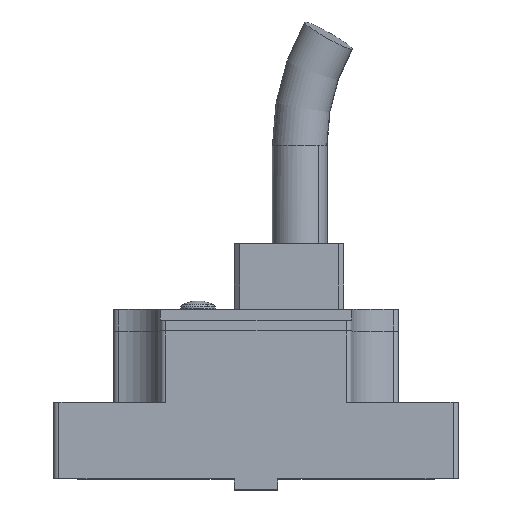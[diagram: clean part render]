
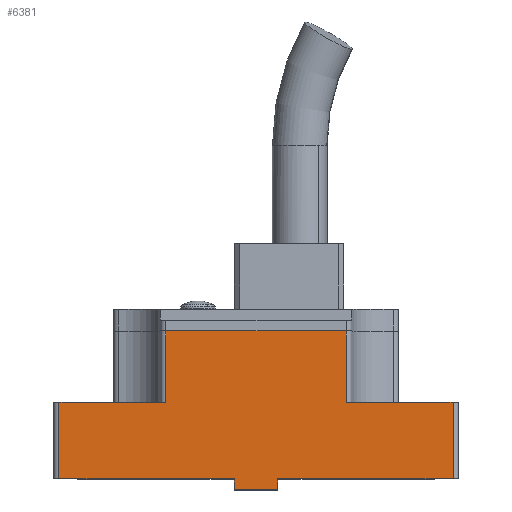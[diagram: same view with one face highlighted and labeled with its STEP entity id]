
A CAD part, top view. The second image highlights one B-rep face of the part: STEP entity #6381.
In plain terms, the highlighted planar face has unit normal (0, 0, 1).
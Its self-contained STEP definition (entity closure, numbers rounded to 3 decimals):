
#92 = FACE_OUTER_BOUND ( 'NONE', #6052, .T. ) ;
#108 = ORIENTED_EDGE ( 'NONE', *, *, #2993, .T. ) ;
#212 = CARTESIAN_POINT ( 'NONE',  ( -2., 0., 15.5 ) ) ;
#493 = VECTOR ( 'NONE', #4047, 1000. ) ;
#740 = LINE ( 'NONE', #6223, #7336 ) ;
#891 = VERTEX_POINT ( 'NONE', #4908 ) ;
#1001 = DIRECTION ( 'NONE',  ( -1., 0., 0. ) ) ;
#1006 = LINE ( 'NONE', #6401, #8058 ) ;
#1175 = CARTESIAN_POINT ( 'NONE',  ( 18., 7., 15.5 ) ) ;
#1332 = CARTESIAN_POINT ( 'NONE',  ( -2., -1., 15.5 ) ) ;
#1466 = DIRECTION ( 'NONE',  ( 1., 0., 0. ) ) ;
#1511 = DIRECTION ( 'NONE',  ( 0., -1., 0. ) ) ;
#1534 = ORIENTED_EDGE ( 'NONE', *, *, #3367, .T. ) ;
#1577 = EDGE_CURVE ( 'NONE', #4821, #2682, #3137, .T. ) ;
#1671 = CARTESIAN_POINT ( 'NONE',  ( 8.25, 13.5, 15.5 ) ) ;
#1701 = CARTESIAN_POINT ( 'NONE',  ( 2., 0., 15.5 ) ) ;
#1777 = VECTOR ( 'NONE', #4032, 1000. ) ;
#1913 = EDGE_CURVE ( 'NONE', #8495, #3940, #5550, .T. ) ;
#2299 = VERTEX_POINT ( 'NONE', #1175 ) ;
#2370 = AXIS2_PLACEMENT_3D ( 'NONE', #6378, #8273, #4955 ) ;
#2595 = VERTEX_POINT ( 'NONE', #1701 ) ;
#2663 = EDGE_CURVE ( 'NONE', #2299, #7792, #5353, .T. ) ;
#2682 = VERTEX_POINT ( 'NONE', #7453 ) ;
#2683 = VECTOR ( 'NONE', #3896, 1000. ) ;
#2838 = CARTESIAN_POINT ( 'NONE',  ( -2., -1., 15.5 ) ) ;
#2993 = EDGE_CURVE ( 'NONE', #891, #3415, #6482, .T. ) ;
#3010 = CARTESIAN_POINT ( 'NONE',  ( -2., 0., 15.5 ) ) ;
#3137 = LINE ( 'NONE', #8515, #4590 ) ;
#3186 = LINE ( 'NONE', #7918, #3271 ) ;
#3225 = EDGE_CURVE ( 'NONE', #4492, #2299, #7378, .T. ) ;
#3250 = CARTESIAN_POINT ( 'NONE',  ( 18., 7., 15.5 ) ) ;
#3257 = CARTESIAN_POINT ( 'NONE',  ( -8.25, 7., 15.5 ) ) ;
#3271 = VECTOR ( 'NONE', #4509, 1000. ) ;
#3367 = EDGE_CURVE ( 'NONE', #7475, #891, #740, .T. ) ;
#3415 = VERTEX_POINT ( 'NONE', #5462 ) ;
#3421 = CARTESIAN_POINT ( 'NONE',  ( 8.75, 7., 15.5 ) ) ;
#3441 = CARTESIAN_POINT ( 'NONE',  ( -18., 0., 15.5 ) ) ;
#3456 = VECTOR ( 'NONE', #1511, 1000. ) ;
#3608 = LINE ( 'NONE', #1671, #4714 ) ;
#3640 = PLANE ( 'NONE',  #2370 ) ;
#3695 = DIRECTION ( 'NONE',  ( 1., 0., 0. ) ) ;
#3760 = VECTOR ( 'NONE', #1466, 1000. ) ;
#3762 = ORIENTED_EDGE ( 'NONE', *, *, #8754, .T. ) ;
#3896 = DIRECTION ( 'NONE',  ( -1., 0., 0. ) ) ;
#3934 = ORIENTED_EDGE ( 'NONE', *, *, #1577, .T. ) ;
#3940 = VERTEX_POINT ( 'NONE', #2838 ) ;
#3960 = DIRECTION ( 'NONE',  ( 0., -1., 0. ) ) ;
#4029 = ORIENTED_EDGE ( 'NONE', *, *, #2663, .T. ) ;
#4032 = DIRECTION ( 'NONE',  ( 1., 0., 0. ) ) ;
#4047 = DIRECTION ( 'NONE',  ( 0., 1., 0. ) ) ;
#4229 = VECTOR ( 'NONE', #7940, 1000. ) ;
#4300 = ORIENTED_EDGE ( 'NONE', *, *, #7849, .T. ) ;
#4492 = VERTEX_POINT ( 'NONE', #6136 ) ;
#4509 = DIRECTION ( 'NONE',  ( 0., 1., 0. ) ) ;
#4590 = VECTOR ( 'NONE', #1001, 1000. ) ;
#4594 = CARTESIAN_POINT ( 'NONE',  ( 8.25, 13.5, 15.5 ) ) ;
#4714 = VECTOR ( 'NONE', #8450, 1000. ) ;
#4821 = VERTEX_POINT ( 'NONE', #4594 ) ;
#4908 = CARTESIAN_POINT ( 'NONE',  ( -18., 7., 15.5 ) ) ;
#4955 = DIRECTION ( 'NONE',  ( -1., 0., 0. ) ) ;
#5224 = CARTESIAN_POINT ( 'NONE',  ( -8.25, 7., 15.5 ) ) ;
#5252 = ORIENTED_EDGE ( 'NONE', *, *, #5600, .T. ) ;
#5353 = LINE ( 'NONE', #3421, #2683 ) ;
#5462 = CARTESIAN_POINT ( 'NONE',  ( -18., 0., 15.5 ) ) ;
#5469 = EDGE_CURVE ( 'NONE', #2682, #7475, #5865, .T. ) ;
#5550 = LINE ( 'NONE', #3010, #3456 ) ;
#5600 = EDGE_CURVE ( 'NONE', #2595, #4492, #1006, .T. ) ;
#5720 = ORIENTED_EDGE ( 'NONE', *, *, #1913, .T. ) ;
#5865 = LINE ( 'NONE', #5224, #4229 ) ;
#5903 = ORIENTED_EDGE ( 'NONE', *, *, #6843, .T. ) ;
#5943 = EDGE_CURVE ( 'NONE', #3415, #8495, #7492, .T. ) ;
#6052 = EDGE_LOOP ( 'NONE', ( #3934, #7962, #1534, #108, #7456, #5720, #5903, #4300, #5252, #7076, #4029, #3762 ) ) ;
#6136 = CARTESIAN_POINT ( 'NONE',  ( 18., 0., 15.5 ) ) ;
#6223 = CARTESIAN_POINT ( 'NONE',  ( -18.5, 7., 15.5 ) ) ;
#6339 = CARTESIAN_POINT ( 'NONE',  ( 2., -1., 15.5 ) ) ;
#6378 = CARTESIAN_POINT ( 'NONE',  ( 0., 0., 15.5 ) ) ;
#6381 = ADVANCED_FACE ( 'NONE', ( #92 ), #3640, .F. ) ;
#6401 = CARTESIAN_POINT ( 'NONE',  ( 18.5, 0., 15.5 ) ) ;
#6482 = LINE ( 'NONE', #3441, #8635 ) ;
#6843 = EDGE_CURVE ( 'NONE', #3940, #8758, #7447, .T. ) ;
#7076 = ORIENTED_EDGE ( 'NONE', *, *, #3225, .T. ) ;
#7176 = CARTESIAN_POINT ( 'NONE',  ( 8.25, 7., 15.5 ) ) ;
#7336 = VECTOR ( 'NONE', #7524, 1000. ) ;
#7378 = LINE ( 'NONE', #3250, #493 ) ;
#7447 = LINE ( 'NONE', #1332, #1777 ) ;
#7453 = CARTESIAN_POINT ( 'NONE',  ( -8.25, 13.5, 15.5 ) ) ;
#7456 = ORIENTED_EDGE ( 'NONE', *, *, #5943, .T. ) ;
#7475 = VERTEX_POINT ( 'NONE', #3257 ) ;
#7492 = LINE ( 'NONE', #212, #3760 ) ;
#7524 = DIRECTION ( 'NONE',  ( -1., 0., 0. ) ) ;
#7792 = VERTEX_POINT ( 'NONE', #7176 ) ;
#7817 = CARTESIAN_POINT ( 'NONE',  ( -2., 0., 15.5 ) ) ;
#7849 = EDGE_CURVE ( 'NONE', #8758, #2595, #3186, .T. ) ;
#7918 = CARTESIAN_POINT ( 'NONE',  ( 2., -1., 15.5 ) ) ;
#7940 = DIRECTION ( 'NONE',  ( 0., -1., 0. ) ) ;
#7962 = ORIENTED_EDGE ( 'NONE', *, *, #5469, .T. ) ;
#8058 = VECTOR ( 'NONE', #3695, 1000. ) ;
#8273 = DIRECTION ( 'NONE',  ( 0., 0., -1. ) ) ;
#8450 = DIRECTION ( 'NONE',  ( 0., 1., 0. ) ) ;
#8495 = VERTEX_POINT ( 'NONE', #7817 ) ;
#8515 = CARTESIAN_POINT ( 'NONE',  ( -8.75, 13.5, 15.5 ) ) ;
#8635 = VECTOR ( 'NONE', #3960, 1000. ) ;
#8754 = EDGE_CURVE ( 'NONE', #7792, #4821, #3608, .T. ) ;
#8758 = VERTEX_POINT ( 'NONE', #6339 ) ;
